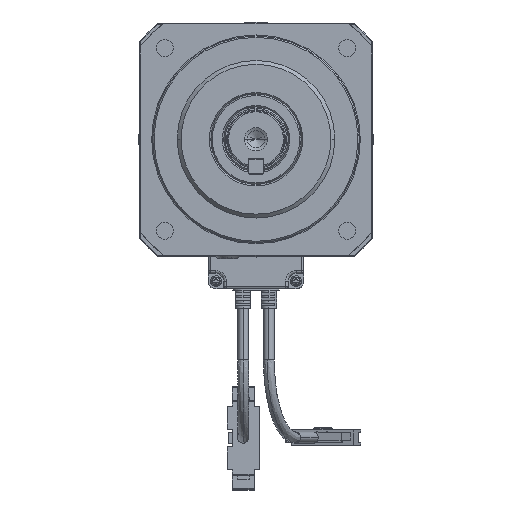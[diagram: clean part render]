
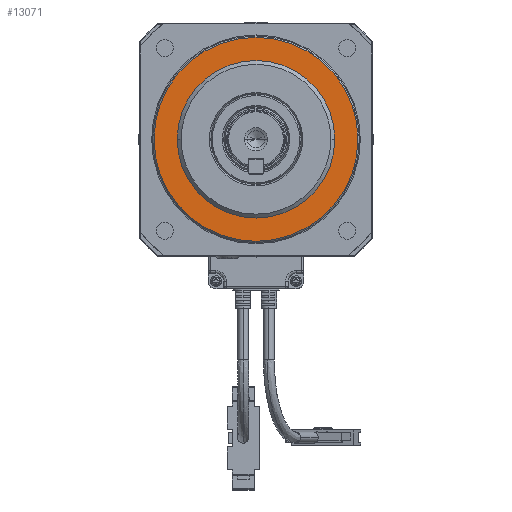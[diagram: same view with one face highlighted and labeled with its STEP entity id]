
A CAD part, top view. The second image highlights one B-rep face of the part: STEP entity #13071.
In plain terms, the highlighted planar face has unit normal (0, 0, 1).
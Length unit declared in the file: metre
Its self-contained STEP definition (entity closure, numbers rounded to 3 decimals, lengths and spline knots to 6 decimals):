
#61 = AXIS2_PLACEMENT_3D ( 'NONE', #28345, #28347, #28349 ) ;
#65 = AXIS2_PLACEMENT_3D ( 'NONE', #28378, #28380, #28382 ) ;
#1798 = AXIS2_PLACEMENT_3D ( 'NONE', #24035, #24036, #24037 ) ;
#3294 = CIRCLE ( 'NONE', #8523, 0.0305 ) ;
#3335 = FACE_OUTER_BOUND ( 'NONE', #36783, .T. ) ;
#3336 = FACE_BOUND ( 'NONE', #36774, .T. ) ;
#3729 = CIRCLE ( 'NONE', #61, 0.0305 ) ;
#3742 = CIRCLE ( 'NONE', #65, 0.0395 ) ;
#5310 = CARTESIAN_POINT ( 'NONE',  ( -0.0395, 0., 0.009 ) ) ;
#5312 = CARTESIAN_POINT ( 'NONE',  ( 0.0395, 0., 0.009 ) ) ;
#6293 = CIRCLE ( 'NONE', #1798, 0.0395 ) ;
#8523 = AXIS2_PLACEMENT_3D ( 'NONE', #39956, #39957, #39958 ) ;
#8544 = AXIS2_PLACEMENT_3D ( 'NONE', #40033, #40038, #40039 ) ;
#10847 = VERTEX_POINT ( 'NONE', #29126 ) ;
#11031 = VERTEX_POINT ( 'NONE', #29579 ) ;
#13043 = EDGE_CURVE ( 'NONE', #11031, #10847, #3294, .T. ) ;
#13071 = ADVANCED_FACE ( 'NONE', ( #3335, #3336 ), #40034, .T. ) ;
#13349 = EDGE_CURVE ( 'NONE', #10847, #11031, #3729, .T. ) ;
#13353 = EDGE_CURVE ( 'NONE', #15818, #15820, #3742, .T. ) ;
#15818 = VERTEX_POINT ( 'NONE', #5310 ) ;
#15820 = VERTEX_POINT ( 'NONE', #5312 ) ;
#18370 = ORIENTED_EDGE ( 'NONE', *, *, #13353, .T. ) ;
#18373 = ORIENTED_EDGE ( 'NONE', *, *, #33860, .T. ) ;
#18377 = ORIENTED_EDGE ( 'NONE', *, *, #13043, .T. ) ;
#18380 = ORIENTED_EDGE ( 'NONE', *, *, #13349, .T. ) ;
#24035 = CARTESIAN_POINT ( 'NONE',  ( 0., 0., 0.009 ) ) ;
#24036 = DIRECTION ( 'NONE',  ( 0., 0., 1. ) ) ;
#24037 = DIRECTION ( 'NONE',  ( 1., 0., 0. ) ) ;
#28345 = CARTESIAN_POINT ( 'NONE',  ( 0., 0., 0.009 ) ) ;
#28347 = DIRECTION ( 'NONE',  ( 0., 0., -1. ) ) ;
#28349 = DIRECTION ( 'NONE',  ( -1., 0., 0. ) ) ;
#28378 = CARTESIAN_POINT ( 'NONE',  ( 0., 0., 0.009 ) ) ;
#28380 = DIRECTION ( 'NONE',  ( 0., 0., 1. ) ) ;
#28382 = DIRECTION ( 'NONE',  ( 1., 0., 0. ) ) ;
#29126 = CARTESIAN_POINT ( 'NONE',  ( 0.0305, 0., 0.009 ) ) ;
#29579 = CARTESIAN_POINT ( 'NONE',  ( -0.0305, 0., 0.009 ) ) ;
#33860 = EDGE_CURVE ( 'NONE', #15820, #15818, #6293, .T. ) ;
#36774 = EDGE_LOOP ( 'NONE', ( #18377, #18380 ) ) ;
#36783 = EDGE_LOOP ( 'NONE', ( #18370, #18373 ) ) ;
#39956 = CARTESIAN_POINT ( 'NONE',  ( 0., 0., 0.009 ) ) ;
#39957 = DIRECTION ( 'NONE',  ( 0., 0., -1. ) ) ;
#39958 = DIRECTION ( 'NONE',  ( -1., 0., 0. ) ) ;
#40033 = CARTESIAN_POINT ( 'NONE',  ( -0.04345, -0.04345, 0.009 ) ) ;
#40034 = PLANE ( 'NONE',  #8544 ) ;
#40038 = DIRECTION ( 'NONE',  ( 0., 0., 1. ) ) ;
#40039 = DIRECTION ( 'NONE',  ( 1., 0., 0. ) ) ;
